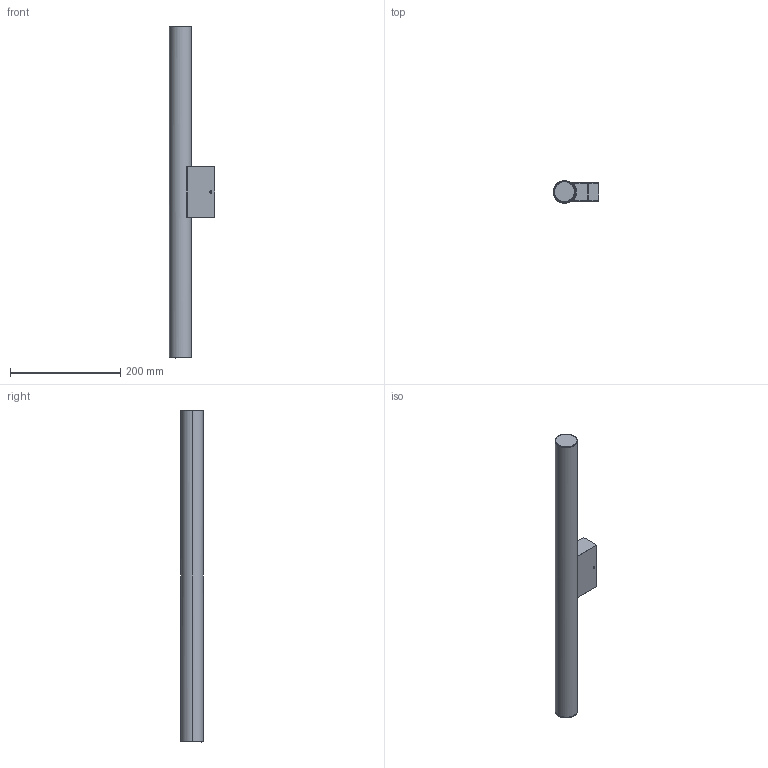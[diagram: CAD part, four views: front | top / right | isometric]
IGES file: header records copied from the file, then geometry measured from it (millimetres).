
Start section: SolidWorks IGES file using NURBS representation for surfaces
Global section: file name: Z:\Modele 3D_WWW\_KOLEKCJE_WWW\ICE-TUBE\ICE-TUBE-LED-S-8118\ICE-TUBE-LED-S-8118.IGS; native system: SolidWorks 2021; preprocessor: SolidWorks 2021; author: gabriela.tworek; date: 210929.115152; units: millimetre
Bounding box: 81.88 x 40 x 601.4 mm (x, y, z)
Surface area: 183099.9 mm2 (no closed solid volume)
Topology: 0 solids, 0 shells, 144 faces, 2325 edges, 2317 vertices
Faces by surface type: bspline 144
